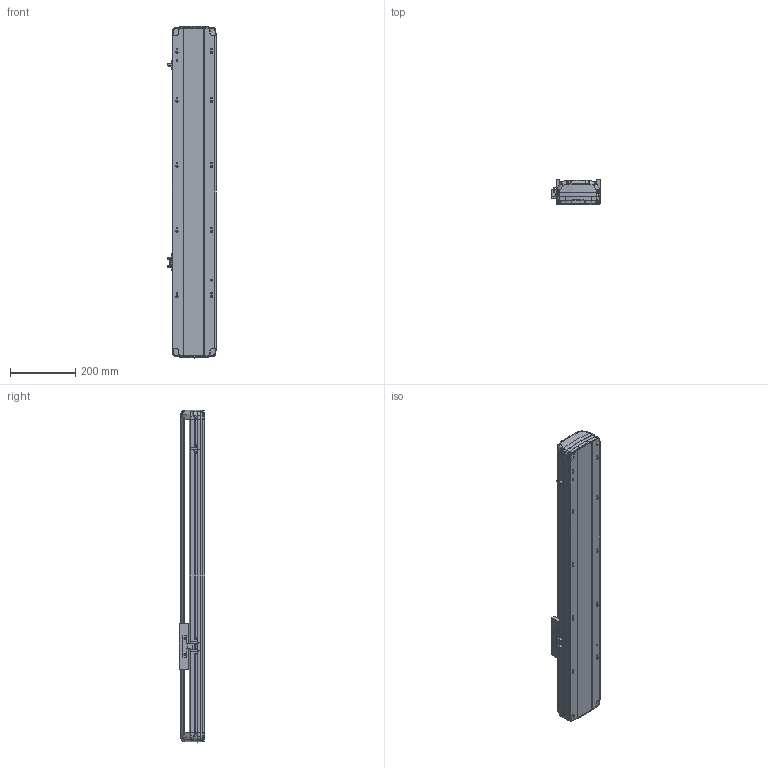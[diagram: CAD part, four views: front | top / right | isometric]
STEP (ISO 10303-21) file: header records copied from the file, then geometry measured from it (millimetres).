
FILE_DESCRIPTION (( 'STEP AP214' ), '1' );
FILE_NAME ('RTH14-XX-600-B-M20B-C4.STEP', '2025-10-24T08:37:17', ( 'Microsoft' ), ( 'Microsoft' ), 'SwSTEP 2.0', 'SolidWorks 2018', '' );
FILE_SCHEMA (( 'AUTOMOTIVE_DESIGN' ));
Length unit declared in the file: millimetre
Products named in the file (7): N_RTH14-B-007B奻裔^RTH14-XX-XX-B-M20B-C4; RTH14-XX-600-B-M20B-C4; N_RTH14-GY-001P^RTH14-XX-XX-B-M20B-C4; N_RTH14-B-011PB菁釱^RTH14-XX-XX-B-M20B-C4; N_RTH13-L-012感应片（外置）^RTH14-XX-XX-B-M20B-C4; N_RTH14-R-004-SFSR16賑釱^RTH14-XX-XX-B-M20B-C4; N_OMRON EE-SX672 传感器^RTH14-XX-XX-B-M20B-C4
Assembly tree (9 placements, depth 2):
  RTH14-XX-600-B-M20B-C4
    N_RTH14-B-011PB菁釱^RTH14-XX-XX-B-M20B-C4
    N_RTH14-B-007B奻裔^RTH14-XX-XX-B-M20B-C4
    N_RTH13-L-012感应片（外置）^RTH14-XX-XX-B-M20B-C4
    N_OMRON EE-SX672 传感器^RTH14-XX-XX-B-M20B-C4  x3
    N_RTH14-R-004-SFSR16賑釱^RTH14-XX-XX-B-M20B-C4
    N_RTH14-GY-001P^RTH14-XX-XX-B-M20B-C4  x2
Bounding box: 148.5 x 78.03 x 1018.99 mm (x, y, z)
Volume: 4204079.7 mm3; surface area: 971402 mm2
Topology: 9 solids, 9 shells, 1918 faces, 5404 edges, 3518 vertices
Faces by surface type: plane 979, bspline 450, cylinder 425, cone 56, torus 8
Entity records: 46616 total; most frequent: CARTESIAN_POINT 20866, ORIENTED_EDGE 5824, DIRECTION 4275, EDGE_CURVE 2912, VERTEX_POINT 1904, LINE 1639, VECTOR 1639, AXIS2_PLACEMENT_3D 1318
